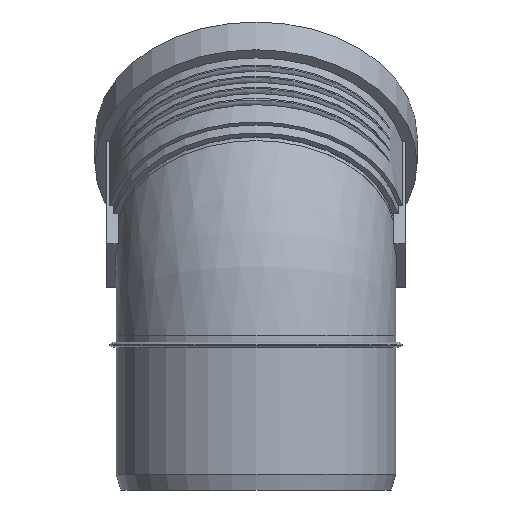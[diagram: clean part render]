
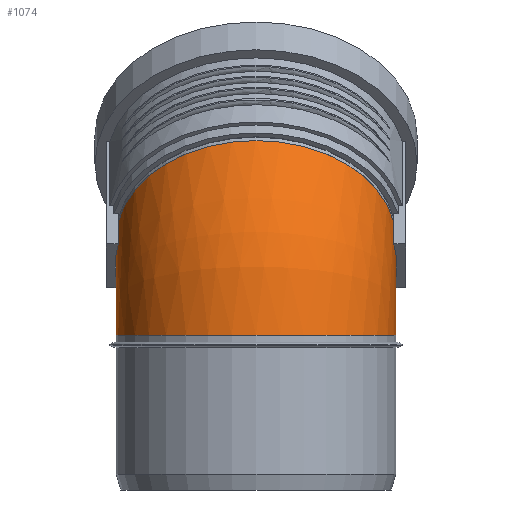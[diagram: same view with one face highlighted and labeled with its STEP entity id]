
A CAD part, left-side view. The second image highlights one B-rep face of the part: STEP entity #1074.
In plain terms, the highlighted free-form (B-spline) face has degree [2, 2] with [9, 9] control points.
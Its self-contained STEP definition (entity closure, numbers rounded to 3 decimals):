
#142=(
BOUNDED_SURFACE()
B_SPLINE_SURFACE(2,2,((#1588,#1589,#1590,#1591,#1592,#1593,#1594,#1595,
#1596),(#1597,#1598,#1599,#1600,#1601,#1602,#1603,#1604,#1605),(#1606,#1607,
#1608,#1609,#1610,#1611,#1612,#1613,#1614),(#1615,#1616,#1617,#1618,#1619,
#1620,#1621,#1622,#1623),(#1624,#1625,#1626,#1627,#1628,#1629,#1630,#1631,
#1632),(#1633,#1634,#1635,#1636,#1637,#1638,#1639,#1640,#1641),(#1642,#1643,
#1644,#1645,#1646,#1647,#1648,#1649,#1650),(#1651,#1652,#1653,#1654,#1655,
#1656,#1657,#1658,#1659),(#1660,#1661,#1662,#1663,#1664,#1665,#1666,#1667,
#1668)),.UNSPECIFIED.,.T.,.T.,.F.)
B_SPLINE_SURFACE_WITH_KNOTS((3,2,2,2,3),(3,2,2,2,3),(-3.142,
-1.571,0.,1.571,3.142),(-3.142,
-1.571,0.,1.571,3.142),.UNSPECIFIED.)
GEOMETRIC_REPRESENTATION_ITEM()
RATIONAL_B_SPLINE_SURFACE(((1.,0.707,1.,0.707,1.,
0.707,1.,0.707,1.),(0.707,0.5,0.707,
0.5,0.707,0.5,0.707,0.5,0.707),(1.,
0.707,1.,0.707,1.,0.707,1.,0.707,
1.),(0.707,0.5,0.707,0.5,0.707,0.5,
0.707,0.5,0.707),(1.,0.707,1.,0.707,
1.,0.707,1.,0.707,1.),(0.707,0.5,0.707,
0.5,0.707,0.5,0.707,0.5,0.707),(1.,
0.707,1.,0.707,1.,0.707,1.,0.707,
1.),(0.707,0.5,0.707,0.5,0.707,0.5,
0.707,0.5,0.707),(1.,0.707,1.,0.707,
1.,0.707,1.,0.707,1.)))
REPRESENTATION_ITEM($)
SURFACE()
);
#260=FACE_OUTER_BOUND($,#331,.T.);
#331=EDGE_LOOP($,(#734,#735));
#425=CIRCLE($,#1158,80.125);
#426=CIRCLE($,#1159,80.125);
#480=VERTEX_POINT($,#1586);
#586=EDGE_CURVE($,#480,#480,#425,.T.);
#587=EDGE_CURVE($,#480,#480,#426,.T.);
#734=ORIENTED_EDGE($,*,*,#586,.T.);
#735=ORIENTED_EDGE($,*,*,#587,.F.);
#1074=ADVANCED_FACE($,(#260),#142,.F.);
#1158=AXIS2_PLACEMENT_3D($,#1587,#1307,#1308);
#1159=AXIS2_PLACEMENT_3D($,#1669,#1309,#1310);
#1307=DIRECTION('center_axis',(-0.707,0.,-0.707));
#1308=DIRECTION('ref_axis',(-0.707,0.,0.707));
#1309=DIRECTION('center_axis',(0.,0.,-1.));
#1310=DIRECTION('ref_axis',(-1.,0.,0.));
#1586=CARTESIAN_POINT('',(80.125,0.,88.74));
#1587=CARTESIAN_POINT('Origin',(23.468,0.,145.397));
#1588=CARTESIAN_POINT('Ctrl Pts',(80.125,0.,88.74));
#1589=CARTESIAN_POINT('Ctrl Pts',(80.125,0.,88.74));
#1590=CARTESIAN_POINT('Ctrl Pts',(80.125,0.,88.74));
#1591=CARTESIAN_POINT('Ctrl Pts',(80.125,0.,88.74));
#1592=CARTESIAN_POINT('Ctrl Pts',(80.125,0.,88.74));
#1593=CARTESIAN_POINT('Ctrl Pts',(80.125,0.,88.74));
#1594=CARTESIAN_POINT('Ctrl Pts',(80.125,0.,88.74));
#1595=CARTESIAN_POINT('Ctrl Pts',(80.125,0.,88.74));
#1596=CARTESIAN_POINT('Ctrl Pts',(80.125,0.,88.74));
#1597=CARTESIAN_POINT('Ctrl Pts',(80.125,-80.125,88.74));
#1598=CARTESIAN_POINT('Ctrl Pts',(80.125,-80.125,88.74));
#1599=CARTESIAN_POINT('Ctrl Pts',(80.125,-80.125,88.74));
#1600=CARTESIAN_POINT('Ctrl Pts',(80.125,-80.125,88.74));
#1601=CARTESIAN_POINT('Ctrl Pts',(80.125,-80.125,88.74));
#1602=CARTESIAN_POINT('Ctrl Pts',(80.125,-80.125,88.74));
#1603=CARTESIAN_POINT('Ctrl Pts',(80.125,-80.125,88.74));
#1604=CARTESIAN_POINT('Ctrl Pts',(80.125,-80.125,88.74));
#1605=CARTESIAN_POINT('Ctrl Pts',(80.125,-80.125,88.74));
#1606=CARTESIAN_POINT('Ctrl Pts',(80.125,-80.125,8.615));
#1607=CARTESIAN_POINT('Ctrl Pts',(0.,-80.125,8.615));
#1608=CARTESIAN_POINT('Ctrl Pts',(0.,-80.125,88.74));
#1609=CARTESIAN_POINT('Ctrl Pts',(0.,-80.125,168.865));
#1610=CARTESIAN_POINT('Ctrl Pts',(80.125,-80.125,168.865));
#1611=CARTESIAN_POINT('Ctrl Pts',(160.25,-80.125,168.865));
#1612=CARTESIAN_POINT('Ctrl Pts',(160.25,-80.125,88.74));
#1613=CARTESIAN_POINT('Ctrl Pts',(160.25,-80.125,8.615));
#1614=CARTESIAN_POINT('Ctrl Pts',(80.125,-80.125,8.615));
#1615=CARTESIAN_POINT('Ctrl Pts',(80.125,-80.125,-71.51));
#1616=CARTESIAN_POINT('Ctrl Pts',(-80.125,-80.125,-71.51));
#1617=CARTESIAN_POINT('Ctrl Pts',(-80.125,-80.125,88.74));
#1618=CARTESIAN_POINT('Ctrl Pts',(-80.125,-80.125,248.99));
#1619=CARTESIAN_POINT('Ctrl Pts',(80.125,-80.125,248.99));
#1620=CARTESIAN_POINT('Ctrl Pts',(240.375,-80.125,248.99));
#1621=CARTESIAN_POINT('Ctrl Pts',(240.375,-80.125,88.74));
#1622=CARTESIAN_POINT('Ctrl Pts',(240.375,-80.125,-71.51));
#1623=CARTESIAN_POINT('Ctrl Pts',(80.125,-80.125,-71.51));
#1624=CARTESIAN_POINT('Ctrl Pts',(80.125,0.,-71.51));
#1625=CARTESIAN_POINT('Ctrl Pts',(-80.125,0.,-71.51));
#1626=CARTESIAN_POINT('Ctrl Pts',(-80.125,0.,88.74));
#1627=CARTESIAN_POINT('Ctrl Pts',(-80.125,0.,248.99));
#1628=CARTESIAN_POINT('Ctrl Pts',(80.125,0.,248.99));
#1629=CARTESIAN_POINT('Ctrl Pts',(240.375,0.,248.99));
#1630=CARTESIAN_POINT('Ctrl Pts',(240.375,0.,88.74));
#1631=CARTESIAN_POINT('Ctrl Pts',(240.375,0.,-71.51));
#1632=CARTESIAN_POINT('Ctrl Pts',(80.125,0.,-71.51));
#1633=CARTESIAN_POINT('Ctrl Pts',(80.125,80.125,-71.51));
#1634=CARTESIAN_POINT('Ctrl Pts',(-80.125,80.125,-71.51));
#1635=CARTESIAN_POINT('Ctrl Pts',(-80.125,80.125,88.74));
#1636=CARTESIAN_POINT('Ctrl Pts',(-80.125,80.125,248.99));
#1637=CARTESIAN_POINT('Ctrl Pts',(80.125,80.125,248.99));
#1638=CARTESIAN_POINT('Ctrl Pts',(240.375,80.125,248.99));
#1639=CARTESIAN_POINT('Ctrl Pts',(240.375,80.125,88.74));
#1640=CARTESIAN_POINT('Ctrl Pts',(240.375,80.125,-71.51));
#1641=CARTESIAN_POINT('Ctrl Pts',(80.125,80.125,-71.51));
#1642=CARTESIAN_POINT('Ctrl Pts',(80.125,80.125,8.615));
#1643=CARTESIAN_POINT('Ctrl Pts',(0.,80.125,8.615));
#1644=CARTESIAN_POINT('Ctrl Pts',(0.,80.125,88.74));
#1645=CARTESIAN_POINT('Ctrl Pts',(0.,80.125,168.865));
#1646=CARTESIAN_POINT('Ctrl Pts',(80.125,80.125,168.865));
#1647=CARTESIAN_POINT('Ctrl Pts',(160.25,80.125,168.865));
#1648=CARTESIAN_POINT('Ctrl Pts',(160.25,80.125,88.74));
#1649=CARTESIAN_POINT('Ctrl Pts',(160.25,80.125,8.615));
#1650=CARTESIAN_POINT('Ctrl Pts',(80.125,80.125,8.615));
#1651=CARTESIAN_POINT('Ctrl Pts',(80.125,80.125,88.74));
#1652=CARTESIAN_POINT('Ctrl Pts',(80.125,80.125,88.74));
#1653=CARTESIAN_POINT('Ctrl Pts',(80.125,80.125,88.74));
#1654=CARTESIAN_POINT('Ctrl Pts',(80.125,80.125,88.74));
#1655=CARTESIAN_POINT('Ctrl Pts',(80.125,80.125,88.74));
#1656=CARTESIAN_POINT('Ctrl Pts',(80.125,80.125,88.74));
#1657=CARTESIAN_POINT('Ctrl Pts',(80.125,80.125,88.74));
#1658=CARTESIAN_POINT('Ctrl Pts',(80.125,80.125,88.74));
#1659=CARTESIAN_POINT('Ctrl Pts',(80.125,80.125,88.74));
#1660=CARTESIAN_POINT('Ctrl Pts',(80.125,0.,88.74));
#1661=CARTESIAN_POINT('Ctrl Pts',(80.125,0.,88.74));
#1662=CARTESIAN_POINT('Ctrl Pts',(80.125,0.,88.74));
#1663=CARTESIAN_POINT('Ctrl Pts',(80.125,0.,88.74));
#1664=CARTESIAN_POINT('Ctrl Pts',(80.125,0.,88.74));
#1665=CARTESIAN_POINT('Ctrl Pts',(80.125,0.,88.74));
#1666=CARTESIAN_POINT('Ctrl Pts',(80.125,0.,88.74));
#1667=CARTESIAN_POINT('Ctrl Pts',(80.125,0.,88.74));
#1668=CARTESIAN_POINT('Ctrl Pts',(80.125,0.,88.74));
#1669=CARTESIAN_POINT('Origin',(0.,0.,88.74));
